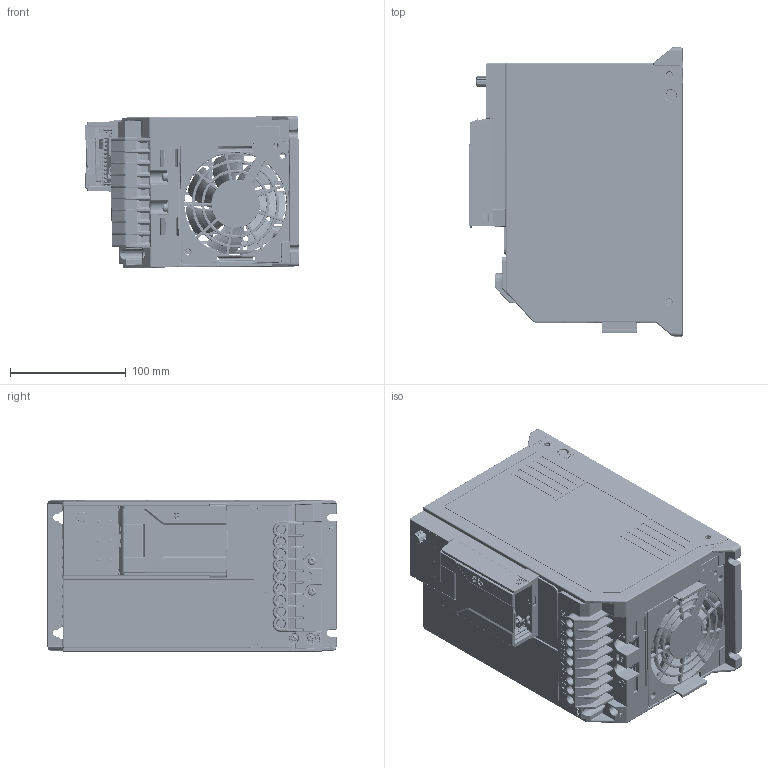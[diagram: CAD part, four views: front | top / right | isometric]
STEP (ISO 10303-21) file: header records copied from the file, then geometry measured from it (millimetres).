
FILE_DESCRIPTION((''),'2;1');
FILE_NAME('GD28_3PH_D00_ASM','2025-09-11T15:31:28',('Administrator'),(''),'CREO PARAMETRIC BY PTC INC, 2019080','CREO PARAMETRIC BY PTC INC, 2019080','');
FILE_SCHEMA(('CONFIG_CONTROL_DESIGN'));
Products named in the file (3): GD28_3PH_D_100; 40810244; GD28_3PH_D00_ASM
Assembly tree (2 placements, depth 2):
  GD28_3PH_D00_ASM
    GD28_3PH_D_100
    40810244
Bounding box: 185.95 x 250 x 131.16 mm (x, y, z)
Volume: 165514 mm3; surface area: 581540.7 mm2
Topology: 14 solids, 25 shells, 16227 faces, 45587 edges, 29548 vertices
Faces by surface type: plane 9841, cylinder 3534, extrusion 1300, torus 733, cone 373, bspline 324, sphere 122
Full cylindrical faces by diameter (mm): 2.571 x1
Entity records: 563419 total; most frequent: CARTESIAN_POINT 150457, ORIENTED_EDGE 90406, DIRECTION 78025, EDGE_CURVE 45462, VECTOR 32903, LINE 31603, VERTEX_POINT 29548, AXIS2_PLACEMENT_3D 22561
